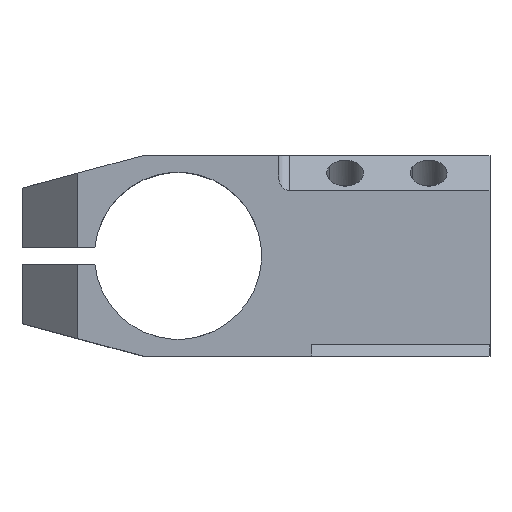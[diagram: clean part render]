
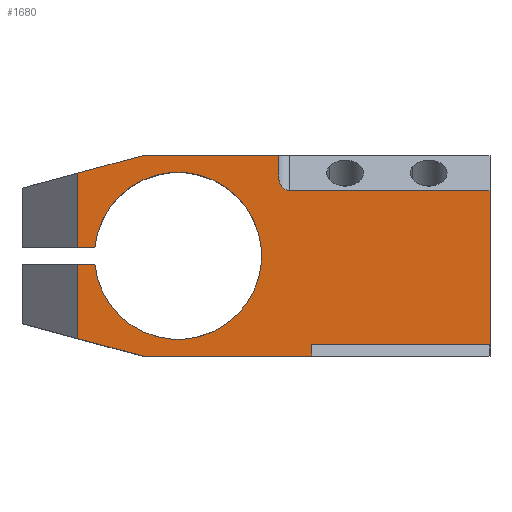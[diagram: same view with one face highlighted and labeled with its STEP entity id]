
A CAD part, top view. The second image highlights one B-rep face of the part: STEP entity #1680.
In plain terms, the highlighted planar face has unit normal (0, 0, 1).
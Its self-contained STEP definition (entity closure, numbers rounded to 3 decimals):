
#537=CARTESIAN_POINT('Vertex',(24.,-18.,18.)) ;
#540=CARTESIAN_POINT('Line Origine',(8.883,-18.,18.)) ;
#544=CARTESIAN_POINT('Vertex',(-6.233,-18.,18.)) ;
#697=CARTESIAN_POINT('Line Origine',(56.,-2.09,18.)) ;
#701=CARTESIAN_POINT('Vertex',(56.,-15.879,18.)) ;
#703=CARTESIAN_POINT('Vertex',(56.,11.698,18.)) ;
#1009=CARTESIAN_POINT('Line Origine',(-12.117,-16.424,18.)) ;
#1013=CARTESIAN_POINT('Vertex',(-18.,-14.847,18.)) ;
#1138=CARTESIAN_POINT('Vertex',(-18.,-1.5,18.)) ;
#1141=CARTESIAN_POINT('Line Origine',(-16.462,-1.5,18.)) ;
#1145=CARTESIAN_POINT('Vertex',(-14.925,-1.5,18.)) ;
#1185=CARTESIAN_POINT('Axis2P3D Location',(0.,0.,18.)) ;
#1189=CARTESIAN_POINT('Vertex',(14.925,1.5,18.)) ;
#1251=CARTESIAN_POINT('Axis2P3D Location',(0.,0.,18.)) ;
#1255=CARTESIAN_POINT('Vertex',(-14.925,1.5,18.)) ;
#1317=CARTESIAN_POINT('Line Origine',(-16.462,1.5,18.)) ;
#1321=CARTESIAN_POINT('Vertex',(-18.,1.5,18.)) ;
#1410=CARTESIAN_POINT('Vertex',(-18.,14.847,18.)) ;
#1413=CARTESIAN_POINT('Line Origine',(-12.117,16.424,18.)) ;
#1417=CARTESIAN_POINT('Vertex',(-6.233,18.,18.)) ;
#1500=CARTESIAN_POINT('Line Origine',(5.883,18.,18.)) ;
#1504=CARTESIAN_POINT('Vertex',(18.,18.,18.)) ;
#1595=CARTESIAN_POINT('Vertex',(24.,-15.879,18.)) ;
#1598=CARTESIAN_POINT('Line Origine',(24.,-16.939,18.)) ;
#1611=CARTESIAN_POINT('Axis2P3D Location',(0.,0.,18.)) ;
#1617=CARTESIAN_POINT('Control Point',(18.,14.527,18.)) ;
#1618=CARTESIAN_POINT('Control Point',(18.,14.247,18.)) ;
#1619=CARTESIAN_POINT('Control Point',(18.024,13.968,18.)) ;
#1620=CARTESIAN_POINT('Control Point',(18.073,13.691,18.)) ;
#1621=CARTESIAN_POINT('Control Point',(18.209,13.196,18.)) ;
#1622=CARTESIAN_POINT('Control Point',(18.436,12.736,18.)) ;
#1623=CARTESIAN_POINT('Control Point',(18.559,12.538,18.)) ;
#1624=CARTESIAN_POINT('Control Point',(18.821,12.206,18.)) ;
#1625=CARTESIAN_POINT('Control Point',(19.153,11.947,18.)) ;
#1626=CARTESIAN_POINT('Control Point',(19.317,11.85,18.)) ;
#1627=CARTESIAN_POINT('Control Point',(19.554,11.754,18.)) ;
#1628=CARTESIAN_POINT('Control Point',(19.803,11.71,18.)) ;
#1629=CARTESIAN_POINT('Control Point',(19.869,11.702,18.)) ;
#1630=CARTESIAN_POINT('Control Point',(19.934,11.698,18.)) ;
#1631=CARTESIAN_POINT('Control Point',(20.,11.698,18.)) ;
#1632=CARTESIAN_POINT('Vertex',(20.,11.698,18.)) ;
#1634=CARTESIAN_POINT('Vertex',(18.,14.527,18.)) ;
#1637=CARTESIAN_POINT('Line Origine',(18.,16.263,18.)) ;
#1642=CARTESIAN_POINT('Line Origine',(-18.,8.174,18.)) ;
#1647=CARTESIAN_POINT('Line Origine',(-18.,-8.174,18.)) ;
#1652=CARTESIAN_POINT('Line Origine',(40.,-15.879,18.)) ;
#1657=CARTESIAN_POINT('Line Origine',(38.,11.698,18.)) ;
#541=DIRECTION('Vector Direction',(-1.,0.,0.)) ;
#698=DIRECTION('Vector Direction',(0.,1.,0.)) ;
#1010=DIRECTION('Vector Direction',(0.966,-0.259,0.)) ;
#1142=DIRECTION('Vector Direction',(1.,0.,0.)) ;
#1186=DIRECTION('Axis2P3D Direction',(0.,0.,1.)) ;
#1252=DIRECTION('Axis2P3D Direction',(0.,0.,1.)) ;
#1318=DIRECTION('Vector Direction',(1.,0.,0.)) ;
#1414=DIRECTION('Vector Direction',(-0.966,-0.259,0.)) ;
#1501=DIRECTION('Vector Direction',(1.,0.,0.)) ;
#1599=DIRECTION('Vector Direction',(0.,-1.,0.)) ;
#1612=DIRECTION('Axis2P3D Direction',(0.,0.,1.)) ;
#1613=DIRECTION('Axis2P3D XDirection',(1.,0.,0.)) ;
#1638=DIRECTION('Vector Direction',(0.,-1.,0.)) ;
#1643=DIRECTION('Vector Direction',(0.,1.,0.)) ;
#1648=DIRECTION('Vector Direction',(0.,1.,0.)) ;
#1653=DIRECTION('Vector Direction',(-1.,0.,0.)) ;
#1658=DIRECTION('Vector Direction',(-1.,0.,0.)) ;
#1187=AXIS2_PLACEMENT_3D('Circle Axis2P3D',#1185,#1186,$) ;
#1253=AXIS2_PLACEMENT_3D('Circle Axis2P3D',#1251,#1252,$) ;
#1614=AXIS2_PLACEMENT_3D('Plane Axis2P3D',#1611,#1612,#1613) ;
#1663=ORIENTED_EDGE('',*,*,#1636,.T.) ;
#1664=ORIENTED_EDGE('',*,*,#1641,.F.) ;
#1665=ORIENTED_EDGE('',*,*,#1506,.T.) ;
#1666=ORIENTED_EDGE('',*,*,#1419,.T.) ;
#1667=ORIENTED_EDGE('',*,*,#1646,.T.) ;
#1668=ORIENTED_EDGE('',*,*,#1323,.T.) ;
#1669=ORIENTED_EDGE('',*,*,#1257,.T.) ;
#1670=ORIENTED_EDGE('',*,*,#1191,.T.) ;
#1671=ORIENTED_EDGE('',*,*,#1147,.T.) ;
#1672=ORIENTED_EDGE('',*,*,#1651,.T.) ;
#1673=ORIENTED_EDGE('',*,*,#1015,.T.) ;
#1674=ORIENTED_EDGE('',*,*,#546,.T.) ;
#1675=ORIENTED_EDGE('',*,*,#1602,.F.) ;
#1676=ORIENTED_EDGE('',*,*,#1656,.F.) ;
#1677=ORIENTED_EDGE('',*,*,#705,.T.) ;
#1678=ORIENTED_EDGE('',*,*,#1661,.T.) ;
#542=VECTOR('Line Direction',#541,1.) ;
#699=VECTOR('Line Direction',#698,1.) ;
#1011=VECTOR('Line Direction',#1010,1.) ;
#1143=VECTOR('Line Direction',#1142,1.) ;
#1319=VECTOR('Line Direction',#1318,1.) ;
#1415=VECTOR('Line Direction',#1414,1.) ;
#1502=VECTOR('Line Direction',#1501,1.) ;
#1600=VECTOR('Line Direction',#1599,1.) ;
#1639=VECTOR('Line Direction',#1638,1.) ;
#1644=VECTOR('Line Direction',#1643,1.) ;
#1649=VECTOR('Line Direction',#1648,1.) ;
#1654=VECTOR('Line Direction',#1653,1.) ;
#1659=VECTOR('Line Direction',#1658,1.) ;
#1680=ADVANCED_FACE('\X2\96F64EF651E04F554F53\X0\',(#1679),#1615,.T.) ;
#1616=B_SPLINE_CURVE_WITH_KNOTS('',5,(#1617,#1618,#1619,#1620,#1621,#1622,#1623,#1624,#1625,#1626,#1627,#1628,#1629,#1630,#1631),.UNSPECIFIED.,.F.,.U.,(6,3,3,3,6),(0.,1.984,3.625,4.954,5.419),.UNSPECIFIED.) ;
#1188=CIRCLE('generated circle',#1187,15.) ;
#1254=CIRCLE('generated circle',#1253,15.) ;
#546=EDGE_CURVE('',#545,#538,#543,.F.) ;
#705=EDGE_CURVE('',#702,#704,#700,.T.) ;
#1015=EDGE_CURVE('',#1014,#545,#1012,.T.) ;
#1147=EDGE_CURVE('',#1146,#1139,#1144,.F.) ;
#1191=EDGE_CURVE('',#1190,#1146,#1188,.F.) ;
#1257=EDGE_CURVE('',#1256,#1190,#1254,.F.) ;
#1323=EDGE_CURVE('',#1322,#1256,#1320,.T.) ;
#1419=EDGE_CURVE('',#1418,#1411,#1416,.T.) ;
#1506=EDGE_CURVE('',#1505,#1418,#1503,.F.) ;
#1602=EDGE_CURVE('',#1596,#538,#1601,.T.) ;
#1636=EDGE_CURVE('',#1633,#1635,#1616,.F.) ;
#1641=EDGE_CURVE('',#1505,#1635,#1640,.T.) ;
#1646=EDGE_CURVE('',#1411,#1322,#1645,.F.) ;
#1651=EDGE_CURVE('',#1139,#1014,#1650,.F.) ;
#1656=EDGE_CURVE('',#702,#1596,#1655,.T.) ;
#1661=EDGE_CURVE('',#704,#1633,#1660,.T.) ;
#1662=EDGE_LOOP('',(#1663,#1664,#1665,#1666,#1667,#1668,#1669,#1670,#1671,#1672,#1673,#1674,#1675,#1676,#1677,#1678)) ;
#1679=FACE_OUTER_BOUND('',#1662,.T.) ;
#543=LINE('Line',#540,#542) ;
#700=LINE('Line',#697,#699) ;
#1012=LINE('Line',#1009,#1011) ;
#1144=LINE('Line',#1141,#1143) ;
#1320=LINE('Line',#1317,#1319) ;
#1416=LINE('Line',#1413,#1415) ;
#1503=LINE('Line',#1500,#1502) ;
#1601=LINE('Line',#1598,#1600) ;
#1640=LINE('Line',#1637,#1639) ;
#1645=LINE('Line',#1642,#1644) ;
#1650=LINE('Line',#1647,#1649) ;
#1655=LINE('Line',#1652,#1654) ;
#1660=LINE('Line',#1657,#1659) ;
#1615=PLANE('',#1614) ;
#538=VERTEX_POINT('',#537) ;
#545=VERTEX_POINT('',#544) ;
#702=VERTEX_POINT('',#701) ;
#704=VERTEX_POINT('',#703) ;
#1014=VERTEX_POINT('',#1013) ;
#1139=VERTEX_POINT('',#1138) ;
#1146=VERTEX_POINT('',#1145) ;
#1190=VERTEX_POINT('',#1189) ;
#1256=VERTEX_POINT('',#1255) ;
#1322=VERTEX_POINT('',#1321) ;
#1411=VERTEX_POINT('',#1410) ;
#1418=VERTEX_POINT('',#1417) ;
#1505=VERTEX_POINT('',#1504) ;
#1596=VERTEX_POINT('',#1595) ;
#1633=VERTEX_POINT('',#1632) ;
#1635=VERTEX_POINT('',#1634) ;
